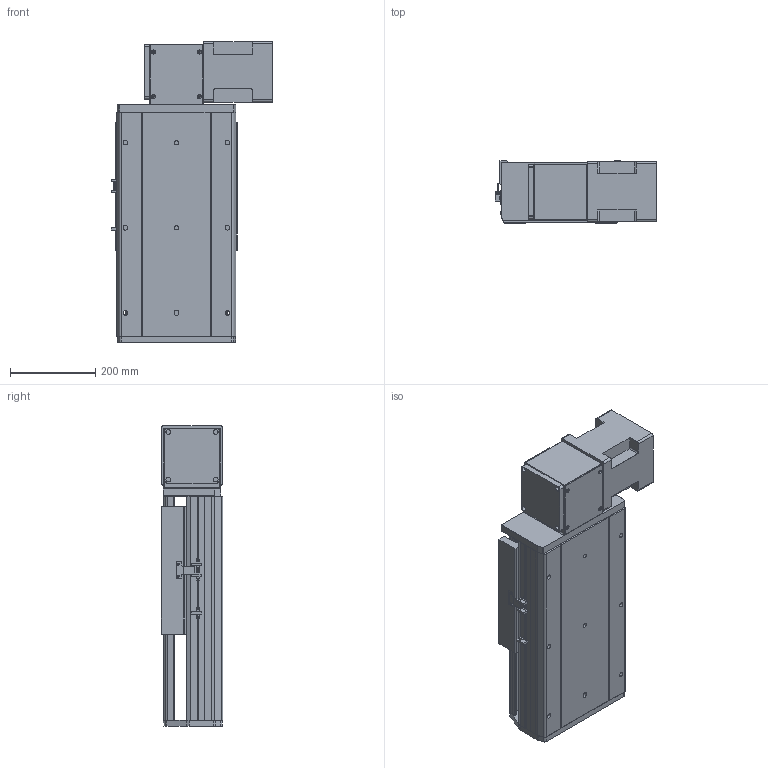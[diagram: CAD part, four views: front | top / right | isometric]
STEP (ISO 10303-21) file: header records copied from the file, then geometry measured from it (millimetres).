
FILE_DESCRIPTION (( 'STEP AP214' ), '1' );
FILE_NAME ('RTB28S-XX-100-BL-M100-XX-C4.STEP', '2025-12-22T02:12:16', ( '' ), ( '' ), 'SwSTEP 2.0', 'SolidWorks 2018', '' );
FILE_SCHEMA (( 'AUTOMOTIVE_DESIGN' ));
Length unit declared in the file: millimetre
Products named in the file (4): RTB28S-GY-008^RTB28S-XX-XX-BL-M100-XX-C4; RTB28S-GY-004^RTB28S-XX-XX-BL-M100-XX-C4; RTB28S-XX-100-BL-M100-XX-C4; RTB28S-GY-011^RTB28S-XX-XX-BL-M100-XX-C4
Assembly tree (3 placements, depth 2):
  RTB28S-XX-100-BL-M100-XX-C4
    RTB28S-GY-011^RTB28S-XX-XX-BL-M100-XX-C4
    RTB28S-GY-004^RTB28S-XX-XX-BL-M100-XX-C4
    RTB28S-GY-008^RTB28S-XX-XX-BL-M100-XX-C4
Bounding box: 380.7 x 145 x 707 mm (x, y, z)
Volume: 15446342.7 mm3; surface area: 1581162.7 mm2
Topology: 3 solids, 4 shells, 738 faces, 1938 edges, 1228 vertices
Faces by surface type: plane 335, cylinder 319, cone 80, torus 4
Entity records: 27083 total; most frequent: CARTESIAN_POINT 4252, DIRECTION 4092, ORIENTED_EDGE 3812, EDGE_CURVE 1906, AXIS2_PLACEMENT_3D 1456, VERTEX_POINT 1228, VECTOR 1180, LINE 1180
